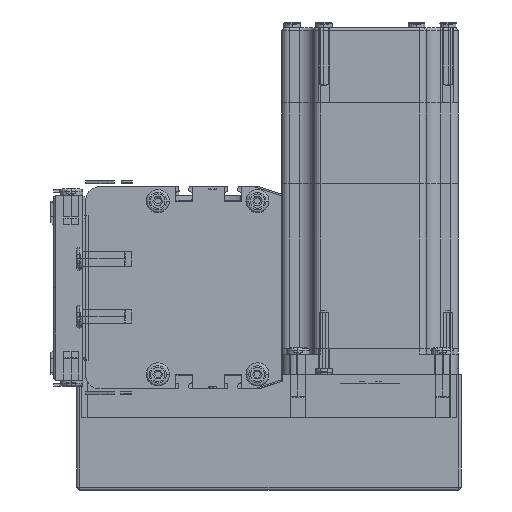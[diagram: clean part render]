
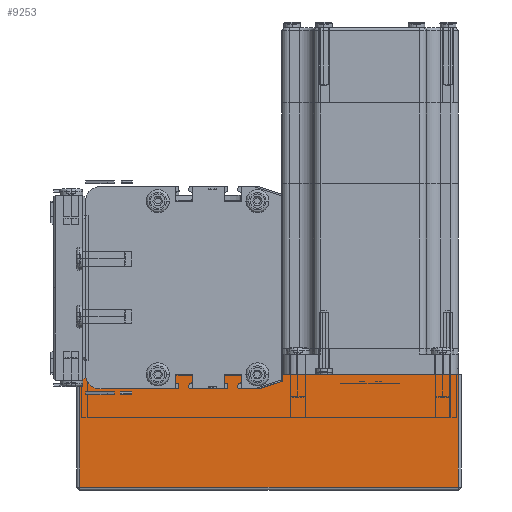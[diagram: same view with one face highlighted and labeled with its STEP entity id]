
A CAD part, left-side view. The second image highlights one B-rep face of the part: STEP entity #9253.
In plain terms, the highlighted planar face has unit normal (-1, 0, 0) as drawn and (0, 1, 0) by its records, which use the part's own axes.
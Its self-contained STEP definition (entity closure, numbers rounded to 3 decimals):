
#4001 = VERTEX_POINT ( 'NONE', #34226 ) ;
#4091 = VERTEX_POINT ( 'NONE', #52459 ) ;
#4688 = EDGE_CURVE ( 'NONE', #4091, #4001, #53672, .T. ) ;
#6538 = ORIENTED_EDGE ( 'NONE', *, *, #4688, .T. ) ;
#7002 = EDGE_LOOP ( 'NONE', ( #9991, #9389, #6538, #8652 ) ) ;
#8377 = VERTEX_POINT ( 'NONE', #56350 ) ;
#8652 = ORIENTED_EDGE ( 'NONE', *, *, #66219, .T. ) ;
#8669 = VERTEX_POINT ( 'NONE', #57062 ) ;
#9253 = ADVANCED_FACE ( 'NONE', ( #57143 ), #57015, .F. ) ;
#9389 = ORIENTED_EDGE ( 'NONE', *, *, #10184, .T. ) ;
#9991 = ORIENTED_EDGE ( 'NONE', *, *, #10069, .T. ) ;
#10069 = EDGE_CURVE ( 'NONE', #8669, #8377, #57251, .T. ) ;
#10184 = EDGE_CURVE ( 'NONE', #8377, #4091, #57237, .T. ) ;
#34226 = CARTESIAN_POINT ( 'NONE',  ( 1., 62., 0. ) ) ;
#52459 = CARTESIAN_POINT ( 'NONE',  ( 132., 62., 0. ) ) ;
#53669 = DIRECTION ( 'NONE',  ( -1., 0., 0. ) ) ;
#53670 = VECTOR ( 'NONE', #53669, 1000. ) ;
#53671 = CARTESIAN_POINT ( 'NONE',  ( 0., 62., 0. ) ) ;
#53672 = LINE ( 'NONE', #53671, #53670 ) ;
#56350 = CARTESIAN_POINT ( 'NONE',  ( 132., 62., 39. ) ) ;
#57014 = CARTESIAN_POINT ( 'NONE',  ( 0., 62., 40. ) ) ;
#57015 = PLANE ( 'NONE',  #57139 ) ;
#57062 = CARTESIAN_POINT ( 'NONE',  ( 1., 62., 39. ) ) ;
#57137 = DIRECTION ( 'NONE',  ( 0., 0., -1. ) ) ;
#57138 = DIRECTION ( 'NONE',  ( 0., -1., 0. ) ) ;
#57139 = AXIS2_PLACEMENT_3D ( 'NONE', #57014, #57138, #57137 ) ;
#57143 = FACE_OUTER_BOUND ( 'NONE', #7002, .T. ) ;
#57232 = DIRECTION ( 'NONE',  ( 0., 0., -1. ) ) ;
#57234 = VECTOR ( 'NONE', #57232, 1000. ) ;
#57236 = CARTESIAN_POINT ( 'NONE',  ( 132., 62., 40. ) ) ;
#57237 = LINE ( 'NONE', #57236, #57234 ) ;
#57246 = DIRECTION ( 'NONE',  ( 1., 0., 0. ) ) ;
#57248 = VECTOR ( 'NONE', #57246, 1000. ) ;
#57250 = CARTESIAN_POINT ( 'NONE',  ( 0., 62., 39. ) ) ;
#57251 = LINE ( 'NONE', #57250, #57248 ) ;
#66219 = EDGE_CURVE ( 'NONE', #4001, #8669, #89501, .T. ) ;
#89485 = DIRECTION ( 'NONE',  ( 0., 0., 1. ) ) ;
#89500 = CARTESIAN_POINT ( 'NONE',  ( 1., 62., 40. ) ) ;
#89501 = LINE ( 'NONE', #89500, #89511 ) ;
#89511 = VECTOR ( 'NONE', #89485, 1000. ) ;
